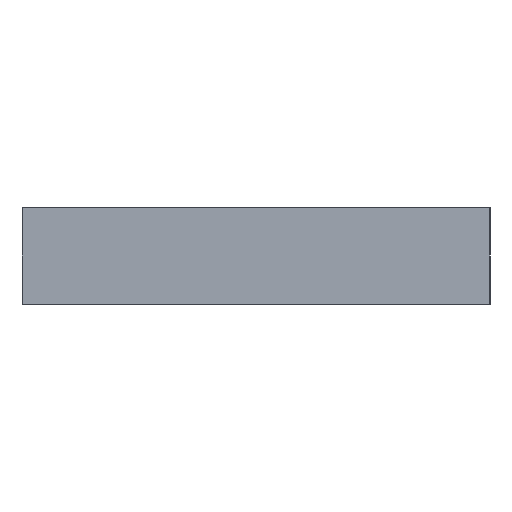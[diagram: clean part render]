
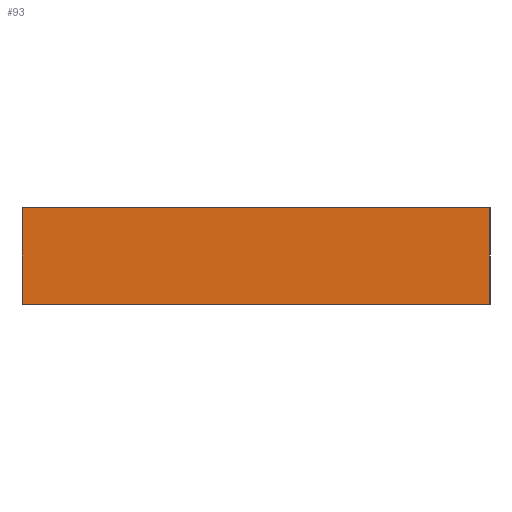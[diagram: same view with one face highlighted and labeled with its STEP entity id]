
A CAD part, left-side view. The second image highlights one B-rep face of the part: STEP entity #93.
In plain terms, the highlighted planar face has unit normal (-1, 0, 0).
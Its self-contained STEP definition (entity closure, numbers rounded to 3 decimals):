
#93 = ADVANCED_FACE( '', ( #180 ), #181, .F. );
#180 = FACE_OUTER_BOUND( '', #256, .T. );
#181 = PLANE( '', #257 );
#256 = EDGE_LOOP( '', ( #373, #374, #375, #376 ) );
#257 = AXIS2_PLACEMENT_3D( '', #377, #378, #379 );
#373 = ORIENTED_EDGE( '', *, *, #452, .T. );
#374 = ORIENTED_EDGE( '', *, *, #427, .F. );
#375 = ORIENTED_EDGE( '', *, *, #440, .F. );
#376 = ORIENTED_EDGE( '', *, *, #453, .T. );
#377 = CARTESIAN_POINT( '', ( -20., 0., 3.5 ) );
#378 = DIRECTION( '', ( 1., 0., 0. ) );
#379 = DIRECTION( '', ( 0., 0., -1. ) );
#427 = EDGE_CURVE( '', #488, #486, #490, .T. );
#440 = EDGE_CURVE( '', #509, #488, #510, .T. );
#452 = EDGE_CURVE( '', #525, #486, #526, .T. );
#453 = EDGE_CURVE( '', #509, #525, #527, .T. );
#486 = VERTEX_POINT( '', #567 );
#488 = VERTEX_POINT( '', #570 );
#490 = LINE( '', #573, #574 );
#509 = VERTEX_POINT( '', #597 );
#510 = LINE( '', #598, #599 );
#525 = VERTEX_POINT( '', #616 );
#526 = LINE( '', #617, #618 );
#527 = LINE( '', #619, #620 );
#567 = CARTESIAN_POINT( '', ( -20., -34., -3.5 ) );
#570 = CARTESIAN_POINT( '', ( -20., -34., 3.5 ) );
#573 = CARTESIAN_POINT( '', ( -20., -34., 3.5 ) );
#574 = VECTOR( '', #650, 1000. );
#597 = CARTESIAN_POINT( '', ( -20., 0., 3.5 ) );
#598 = CARTESIAN_POINT( '', ( -20., 0., 3.5 ) );
#599 = VECTOR( '', #667, 1000. );
#616 = CARTESIAN_POINT( '', ( -20., 0., -3.5 ) );
#617 = CARTESIAN_POINT( '', ( -20., 0., -3.5 ) );
#618 = VECTOR( '', #679, 1000. );
#619 = CARTESIAN_POINT( '', ( -20., 0., 3.5 ) );
#620 = VECTOR( '', #680, 1000. );
#650 = DIRECTION( '', ( 0., 0., -1. ) );
#667 = DIRECTION( '', ( 0., -1., 0. ) );
#679 = DIRECTION( '', ( 0., -1., 0. ) );
#680 = DIRECTION( '', ( 0., 0., -1. ) );
